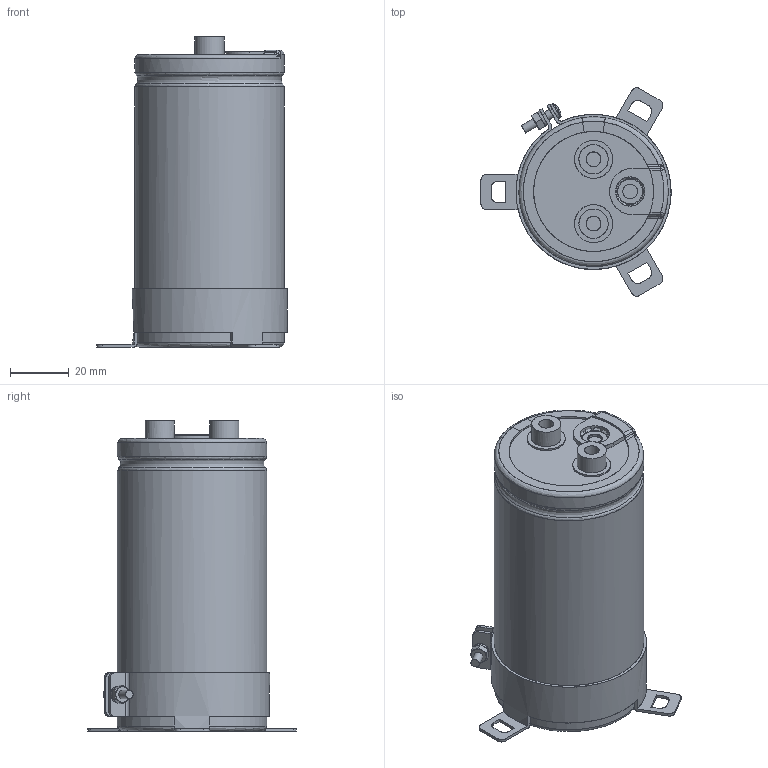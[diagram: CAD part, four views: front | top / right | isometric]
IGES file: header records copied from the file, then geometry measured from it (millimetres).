
Start section: JAMA-IS VERSION  1.0
Bounding box: 65 x 71.22 x 106 mm (x, y, z)
Surface area: 62427.8 mm2 (no closed solid volume)
Topology: 0 solids, 0 shells, 298 faces, 4625 edges, 4595 vertices
Faces by surface type: bspline 298
